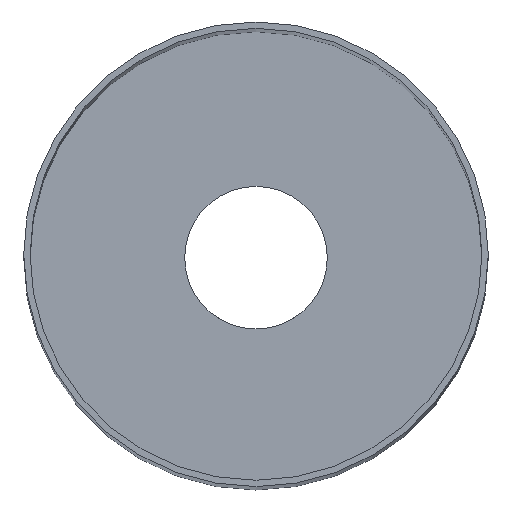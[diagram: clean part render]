
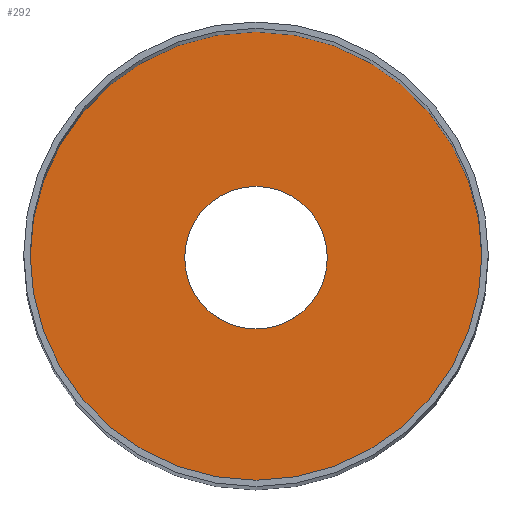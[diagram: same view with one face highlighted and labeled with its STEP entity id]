
A CAD part, top view. The second image highlights one B-rep face of the part: STEP entity #292.
In plain terms, the highlighted planar face has unit normal (0, 0, 1).
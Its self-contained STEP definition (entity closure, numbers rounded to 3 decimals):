
#133 = CYLINDRICAL_SURFACE('',#134,6.75);
#134 = AXIS2_PLACEMENT_3D('',#135,#136,#137);
#135 = CARTESIAN_POINT('',(0.,0.,94.));
#136 = DIRECTION('',(-0.,-0.,-1.));
#137 = DIRECTION('',(1.,0.,0.));
#168 = CYLINDRICAL_SURFACE('',#169,21.4);
#169 = AXIS2_PLACEMENT_3D('',#170,#171,#172);
#170 = CARTESIAN_POINT('',(0.,0.,95.));
#171 = DIRECTION('',(-0.,-0.,-1.));
#172 = DIRECTION('',(1.,0.,0.));
#185 = VERTEX_POINT('',#186);
#186 = CARTESIAN_POINT('',(6.75,0.,95.6));
#207 = EDGE_CURVE('',#185,#185,#208,.T.);
#208 = SURFACE_CURVE('',#209,(#214,#221),.PCURVE_S1.);
#209 = CIRCLE('',#210,6.75);
#210 = AXIS2_PLACEMENT_3D('',#211,#212,#213);
#211 = CARTESIAN_POINT('',(0.,0.,95.6));
#212 = DIRECTION('',(0.,0.,-1.));
#213 = DIRECTION('',(1.,0.,0.));
#214 = PCURVE('',#133,#215);
#215 = DEFINITIONAL_REPRESENTATION('',(#216),#220);
#216 = LINE('',#217,#218);
#217 = CARTESIAN_POINT('',(-6.283,-1.6));
#218 = VECTOR('',#219,1.);
#219 = DIRECTION('',(1.,-0.));
#220 = ( GEOMETRIC_REPRESENTATION_CONTEXT(2) 
PARAMETRIC_REPRESENTATION_CONTEXT() REPRESENTATION_CONTEXT('2D SPACE',''
  ) );
#221 = PCURVE('',#222,#227);
#222 = PLANE('',#223);
#223 = AXIS2_PLACEMENT_3D('',#224,#225,#226);
#224 = CARTESIAN_POINT('',(0.,0.,95.6)
  );
#225 = DIRECTION('',(0.,0.,1.));
#226 = DIRECTION('',(1.,0.,-0.));
#227 = DEFINITIONAL_REPRESENTATION('',(#228),#236);
#228 = ( BOUNDED_CURVE() B_SPLINE_CURVE(2,(#229,#230,#231,#232,#233,#234
,#235),.UNSPECIFIED.,.T.,.F.) B_SPLINE_CURVE_WITH_KNOTS((1,2,2,2,2,1),(
    -2.094,0.,2.094,4.189,6.283,
8.378),.UNSPECIFIED.) CURVE() GEOMETRIC_REPRESENTATION_ITEM() 
RATIONAL_B_SPLINE_CURVE((1.,0.5,1.,0.5,1.,0.5,1.)) REPRESENTATION_ITEM(
  '') );
#229 = CARTESIAN_POINT('',(6.75,0.));
#230 = CARTESIAN_POINT('',(6.75,-11.691));
#231 = CARTESIAN_POINT('',(-3.375,-5.846));
#232 = CARTESIAN_POINT('',(-13.5,0.));
#233 = CARTESIAN_POINT('',(-3.375,5.846));
#234 = CARTESIAN_POINT('',(6.75,11.691));
#235 = CARTESIAN_POINT('',(6.75,0.));
#236 = ( GEOMETRIC_REPRESENTATION_CONTEXT(2) 
PARAMETRIC_REPRESENTATION_CONTEXT() REPRESENTATION_CONTEXT('2D SPACE',''
  ) );
#243 = VERTEX_POINT('',#244);
#244 = CARTESIAN_POINT('',(21.4,0.,95.6));
#265 = EDGE_CURVE('',#243,#243,#266,.T.);
#266 = SURFACE_CURVE('',#267,(#272,#279),.PCURVE_S1.);
#267 = CIRCLE('',#268,21.4);
#268 = AXIS2_PLACEMENT_3D('',#269,#270,#271);
#269 = CARTESIAN_POINT('',(0.,0.,95.6));
#270 = DIRECTION('',(0.,0.,-1.));
#271 = DIRECTION('',(1.,0.,0.));
#272 = PCURVE('',#168,#273);
#273 = DEFINITIONAL_REPRESENTATION('',(#274),#278);
#274 = LINE('',#275,#276);
#275 = CARTESIAN_POINT('',(-6.283,-0.6));
#276 = VECTOR('',#277,1.);
#277 = DIRECTION('',(1.,-0.));
#278 = ( GEOMETRIC_REPRESENTATION_CONTEXT(2) 
PARAMETRIC_REPRESENTATION_CONTEXT() REPRESENTATION_CONTEXT('2D SPACE',''
  ) );
#279 = PCURVE('',#222,#280);
#280 = DEFINITIONAL_REPRESENTATION('',(#281),#289);
#281 = ( BOUNDED_CURVE() B_SPLINE_CURVE(2,(#282,#283,#284,#285,#286,#287
,#288),.UNSPECIFIED.,.T.,.F.) B_SPLINE_CURVE_WITH_KNOTS((1,2,2,2,2,1),(
    -2.094,0.,2.094,4.189,6.283,
8.378),.UNSPECIFIED.) CURVE() GEOMETRIC_REPRESENTATION_ITEM() 
RATIONAL_B_SPLINE_CURVE((1.,0.5,1.,0.5,1.,0.5,1.)) REPRESENTATION_ITEM(
  '') );
#282 = CARTESIAN_POINT('',(21.4,0.));
#283 = CARTESIAN_POINT('',(21.4,-37.066));
#284 = CARTESIAN_POINT('',(-10.7,-18.533));
#285 = CARTESIAN_POINT('',(-42.8,0.));
#286 = CARTESIAN_POINT('',(-10.7,18.533));
#287 = CARTESIAN_POINT('',(21.4,37.066));
#288 = CARTESIAN_POINT('',(21.4,0.));
#289 = ( GEOMETRIC_REPRESENTATION_CONTEXT(2) 
PARAMETRIC_REPRESENTATION_CONTEXT() REPRESENTATION_CONTEXT('2D SPACE',''
  ) );
#292 = ADVANCED_FACE('',(#293,#296),#222,.T.);
#293 = FACE_BOUND('',#294,.T.);
#294 = EDGE_LOOP('',(#295));
#295 = ORIENTED_EDGE('',*,*,#265,.F.);
#296 = FACE_BOUND('',#297,.T.);
#297 = EDGE_LOOP('',(#298));
#298 = ORIENTED_EDGE('',*,*,#207,.T.);
